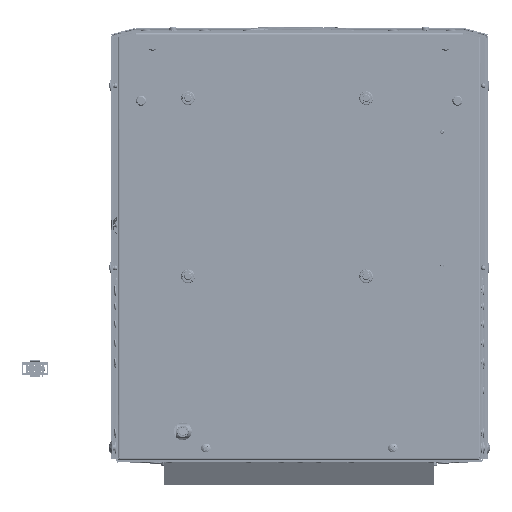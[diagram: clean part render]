
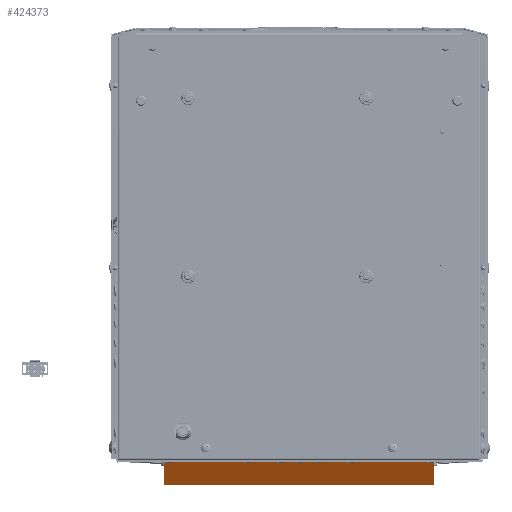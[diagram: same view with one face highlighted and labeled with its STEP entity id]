
A CAD part, front view. The second image highlights one B-rep face of the part: STEP entity #424373.
In plain terms, the highlighted planar face has unit normal (0, -0.866, -0.5).
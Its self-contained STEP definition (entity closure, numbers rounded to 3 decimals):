
#2341 = EDGE_CURVE ( 'NONE', #351447, #266987, #355668, .T. ) ;
#50795 = DIRECTION ( 'NONE',  ( 0., 0.5, -0.866 ) ) ;
#55431 = EDGE_CURVE ( 'NONE', #362043, #266987, #569447, .T. ) ;
#72933 = EDGE_CURVE ( 'NONE', #362043, #139106, #150537, .T. ) ;
#84708 = DIRECTION ( 'NONE',  ( 0., 0.5, -0.866 ) ) ;
#96887 = DIRECTION ( 'NONE',  ( 0., -0.5, 0.866 ) ) ;
#97058 = DIRECTION ( 'NONE',  ( 0., -0.866, -0.5 ) ) ;
#101155 = CARTESIAN_POINT ( 'NONE',  ( -143.144, -568.956, -24.96 ) ) ;
#107698 = CARTESIAN_POINT ( 'NONE',  ( 144.144, -582.318, -1.816 ) ) ;
#110410 = EDGE_LOOP ( 'NONE', ( #566557, #585863, #264586, #590515, #432501, #172601 ) ) ;
#119734 = AXIS2_PLACEMENT_3D ( 'NONE', #101155, #470057, #50795 ) ;
#137509 = PLANE ( 'NONE',  #255271 ) ;
#139106 = VERTEX_POINT ( 'NONE', #275538 ) ;
#150537 = LINE ( 'NONE', #295083, #266809 ) ;
#151017 = CARTESIAN_POINT ( 'NONE',  ( 144.144, -568.956, -24.96 ) ) ;
#157192 = DIRECTION ( 'NONE',  ( 1., 0., 0. ) ) ;
#157567 = CARTESIAN_POINT ( 'NONE',  ( -145.144, -567.956, -26.692 ) ) ;
#172601 = ORIENTED_EDGE ( 'NONE', *, *, #55431, .T. ) ;
#176236 = EDGE_CURVE ( 'NONE', #580067, #268450, #597072, .T. ) ;
#189627 = AXIS2_PLACEMENT_3D ( 'NONE', #554273, #296098, #84708 ) ;
#202718 = EDGE_CURVE ( 'NONE', #351447, #268450, #478876, .T. ) ;
#248100 = CARTESIAN_POINT ( 'NONE',  ( -145.144, -582.318, -1.816 ) ) ;
#255271 = AXIS2_PLACEMENT_3D ( 'NONE', #647572, #97058, #607064 ) ;
#264586 = ORIENTED_EDGE ( 'NONE', *, *, #176236, .F. ) ;
#266809 = VECTOR ( 'NONE', #96887, 1000. ) ;
#266987 = VERTEX_POINT ( 'NONE', #353075 ) ;
#268450 = VERTEX_POINT ( 'NONE', #151017 ) ;
#275538 = CARTESIAN_POINT ( 'NONE',  ( -145.144, -582.318, -1.816 ) ) ;
#288825 = VECTOR ( 'NONE', #157192, 1000. ) ;
#295083 = CARTESIAN_POINT ( 'NONE',  ( -145.144, -582.545, -1.422 ) ) ;
#296098 = DIRECTION ( 'NONE',  ( 0., -0.866, -0.5 ) ) ;
#304204 = VECTOR ( 'NONE', #570132, 1000. ) ;
#348820 = FACE_OUTER_BOUND ( 'NONE', #110410, .T. ) ;
#351447 = VERTEX_POINT ( 'NONE', #434479 ) ;
#353075 = CARTESIAN_POINT ( 'NONE',  ( -143.144, -567.956, -26.692 ) ) ;
#355668 = LINE ( 'NONE', #157567, #304204 ) ;
#362043 = VERTEX_POINT ( 'NONE', #630215 ) ;
#424373 = ADVANCED_FACE ( 'NONE', ( #348820 ), #137509, .T. ) ;
#432501 = ORIENTED_EDGE ( 'NONE', *, *, #72933, .F. ) ;
#434479 = CARTESIAN_POINT ( 'NONE',  ( 142.144, -567.956, -26.692 ) ) ;
#470057 = DIRECTION ( 'NONE',  ( 0., -0.866, -0.5 ) ) ;
#475963 = EDGE_CURVE ( 'NONE', #139106, #580067, #556607, .T. ) ;
#478876 = CIRCLE ( 'NONE', #189627, 2. ) ;
#554273 = CARTESIAN_POINT ( 'NONE',  ( 142.144, -568.956, -24.96 ) ) ;
#556607 = LINE ( 'NONE', #248100, #288825 ) ;
#566557 = ORIENTED_EDGE ( 'NONE', *, *, #2341, .F. ) ;
#569447 = CIRCLE ( 'NONE', #119734, 2. ) ;
#570132 = DIRECTION ( 'NONE',  ( -1., 0., 0. ) ) ;
#580067 = VERTEX_POINT ( 'NONE', #107698 ) ;
#585863 = ORIENTED_EDGE ( 'NONE', *, *, #202718, .T. ) ;
#590515 = ORIENTED_EDGE ( 'NONE', *, *, #475963, .F. ) ;
#597072 = LINE ( 'NONE', #600374, #625048 ) ;
#600374 = CARTESIAN_POINT ( 'NONE',  ( 144.144, -567.956, -26.692 ) ) ;
#607064 = DIRECTION ( 'NONE',  ( 0., 0.5, -0.866 ) ) ;
#625048 = VECTOR ( 'NONE', #654108, 1000. ) ;
#630215 = CARTESIAN_POINT ( 'NONE',  ( -145.144, -568.956, -24.96 ) ) ;
#647572 = CARTESIAN_POINT ( 'NONE',  ( 0., -437.411, -252.802 ) ) ;
#654108 = DIRECTION ( 'NONE',  ( 0., 0.5, -0.866 ) ) ;
